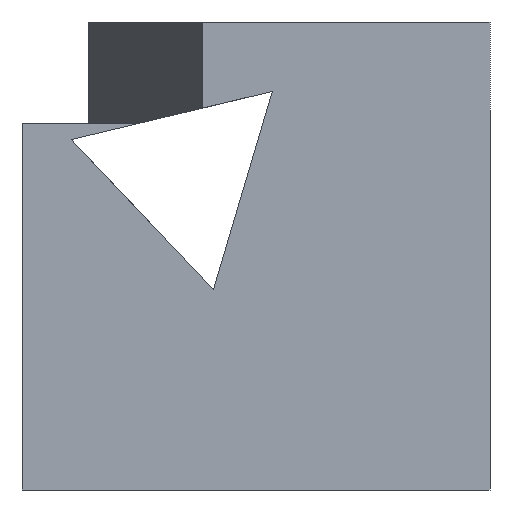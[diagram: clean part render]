
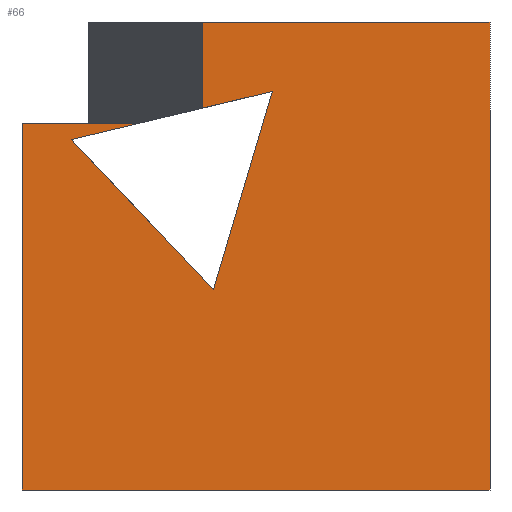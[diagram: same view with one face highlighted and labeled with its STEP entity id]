
A CAD part, left-side view. The second image highlights one B-rep face of the part: STEP entity #66.
In plain terms, the highlighted planar face has unit normal (-1, 0, 0).
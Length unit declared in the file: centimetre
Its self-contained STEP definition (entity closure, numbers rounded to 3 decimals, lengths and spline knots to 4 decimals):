
#22 = VERTEX_POINT ( 'NONE', #666 ) ;
#36 = CARTESIAN_POINT ( 'NONE',  ( 0., 614.4943, 782.725 ) ) ;
#49 = LINE ( 'NONE', #386, #707 ) ;
#51 = CARTESIAN_POINT ( 'NONE',  ( 0., 614.4943, 815.9777 ) ) ;
#66 = ADVANCED_FACE ( 'NONE', ( #614 ), #430, .F. ) ;
#80 = LINE ( 'NONE', #127, #608 ) ;
#84 = VERTEX_POINT ( 'NONE', #655 ) ;
#91 = CARTESIAN_POINT ( 'NONE',  ( 0., 753.4594, 782.725 ) ) ;
#93 = EDGE_CURVE ( 'NONE', #183, #115, #659, .T. ) ;
#97 = CARTESIAN_POINT ( 'NONE',  ( 0., 614.4943, 782.725 ) ) ;
#99 = CARTESIAN_POINT ( 'NONE',  ( 0., 591.0002, 427.9463 ) ) ;
#110 = ORIENTED_EDGE ( 'NONE', *, *, #677, .F. ) ;
#115 = VERTEX_POINT ( 'NONE', #609 ) ;
#120 = ORIENTED_EDGE ( 'NONE', *, *, #197, .F. ) ;
#123 = ORIENTED_EDGE ( 'NONE', *, *, #212, .F. ) ;
#127 = CARTESIAN_POINT ( 'NONE',  ( 0., 1000., 1000. ) ) ;
#136 = ORIENTED_EDGE ( 'NONE', *, *, #526, .F. ) ;
#182 = CARTESIAN_POINT ( 'NONE',  ( 0., 1000., 782.725 ) ) ;
#183 = VERTEX_POINT ( 'NONE', #312 ) ;
#185 = CARTESIAN_POINT ( 'NONE',  ( 0., 465.1284, 851.7193 ) ) ;
#189 = DIRECTION ( 'NONE',  ( 0., 0.973, -0.233 ) ) ;
#191 = VERTEX_POINT ( 'NONE', #699 ) ;
#195 = EDGE_LOOP ( 'NONE', ( #123, #396, #313, #644, #569, #110, #120, #347, #617, #136 ) ) ;
#197 = EDGE_CURVE ( 'NONE', #640, #403, #535, .T. ) ;
#201 = VECTOR ( 'NONE', #574, 100. ) ;
#204 = CARTESIAN_POINT ( 'NONE',  ( 0., 1000., 1000. ) ) ;
#209 = DIRECTION ( 'NONE',  ( 0., 0., -1. ) ) ;
#212 = EDGE_CURVE ( 'NONE', #22, #191, #80, .T. ) ;
#244 = AXIS2_PLACEMENT_3D ( 'NONE', #204, #324, #714 ) ;
#268 = LINE ( 'NONE', #447, #416 ) ;
#312 = CARTESIAN_POINT ( 'NONE',  ( 0., 1000., 0. ) ) ;
#313 = ORIENTED_EDGE ( 'NONE', *, *, #382, .F. ) ;
#324 = DIRECTION ( 'NONE',  ( 1., 0., 0. ) ) ;
#336 = VERTEX_POINT ( 'NONE', #51 ) ;
#347 = ORIENTED_EDGE ( 'NONE', *, *, #511, .T. ) ;
#351 = VERTEX_POINT ( 'NONE', #99 ) ;
#352 = LINE ( 'NONE', #692, #201 ) ;
#368 = DIRECTION ( 'NONE',  ( 0., -1., 0. ) ) ;
#381 = LINE ( 'NONE', #97, #601 ) ;
#382 = EDGE_CURVE ( 'NONE', #498, #336, #660, .T. ) ;
#386 = CARTESIAN_POINT ( 'NONE',  ( 0., 895.0625, 748.8409 ) ) ;
#387 = DIRECTION ( 'NONE',  ( 0., -1., 0. ) ) ;
#396 = ORIENTED_EDGE ( 'NONE', *, *, #536, .F. ) ;
#403 = VERTEX_POINT ( 'NONE', #91 ) ;
#411 = EDGE_CURVE ( 'NONE', #84, #351, #49, .T. ) ;
#416 = VECTOR ( 'NONE', #662, 100. ) ;
#421 = VECTOR ( 'NONE', #368, 100. ) ;
#429 = CARTESIAN_POINT ( 'NONE',  ( 0., 465.1284, 851.7193 ) ) ;
#430 = PLANE ( 'NONE',  #244 ) ;
#440 = CARTESIAN_POINT ( 'NONE',  ( 0., 1000., 0. ) ) ;
#447 = CARTESIAN_POINT ( 'NONE',  ( 0., 1000., 1000. ) ) ;
#464 = LINE ( 'NONE', #185, #483 ) ;
#483 = VECTOR ( 'NONE', #189, 100. ) ;
#487 = LINE ( 'NONE', #713, #494 ) ;
#494 = VECTOR ( 'NONE', #209, 100. ) ;
#498 = VERTEX_POINT ( 'NONE', #621 ) ;
#511 = EDGE_CURVE ( 'NONE', #640, #183, #268, .T. ) ;
#526 = EDGE_CURVE ( 'NONE', #191, #115, #487, .T. ) ;
#535 = LINE ( 'NONE', #36, #421 ) ;
#536 = EDGE_CURVE ( 'NONE', #336, #22, #381, .T. ) ;
#539 = VECTOR ( 'NONE', #548, 100. ) ;
#545 = DIRECTION ( 'NONE',  ( 0., 0., 1. ) ) ;
#548 = DIRECTION ( 'NONE',  ( 0., 0.973, -0.233 ) ) ;
#557 = VECTOR ( 'NONE', #387, 100. ) ;
#569 = ORIENTED_EDGE ( 'NONE', *, *, #411, .F. ) ;
#574 = DIRECTION ( 'NONE',  ( 0., -0.285, 0.959 ) ) ;
#594 = DIRECTION ( 'NONE',  ( 0., -1., 0. ) ) ;
#601 = VECTOR ( 'NONE', #545, 100. ) ;
#607 = DIRECTION ( 'NONE',  ( 0., -0.688, -0.726 ) ) ;
#608 = VECTOR ( 'NONE', #594, 100. ) ;
#609 = CARTESIAN_POINT ( 'NONE',  ( 0., 0., 0. ) ) ;
#614 = FACE_OUTER_BOUND ( 'NONE', #195, .T. ) ;
#617 = ORIENTED_EDGE ( 'NONE', *, *, #93, .T. ) ;
#621 = CARTESIAN_POINT ( 'NONE',  ( 0., 465.1284, 851.7193 ) ) ;
#640 = VERTEX_POINT ( 'NONE', #182 ) ;
#644 = ORIENTED_EDGE ( 'NONE', *, *, #719, .F. ) ;
#655 = CARTESIAN_POINT ( 'NONE',  ( 0., 895.0625, 748.8409 ) ) ;
#659 = LINE ( 'NONE', #440, #557 ) ;
#660 = LINE ( 'NONE', #429, #539 ) ;
#662 = DIRECTION ( 'NONE',  ( 0., 0., -1. ) ) ;
#666 = CARTESIAN_POINT ( 'NONE',  ( 0., 614.4943, 1000. ) ) ;
#677 = EDGE_CURVE ( 'NONE', #403, #84, #464, .T. ) ;
#692 = CARTESIAN_POINT ( 'NONE',  ( 0., 591.0002, 427.9463 ) ) ;
#699 = CARTESIAN_POINT ( 'NONE',  ( 0., 0., 1000. ) ) ;
#707 = VECTOR ( 'NONE', #607, 100. ) ;
#713 = CARTESIAN_POINT ( 'NONE',  ( 0., 0., 1000. ) ) ;
#714 = DIRECTION ( 'NONE',  ( 0., 0., -1. ) ) ;
#719 = EDGE_CURVE ( 'NONE', #351, #498, #352, .T. ) ;
